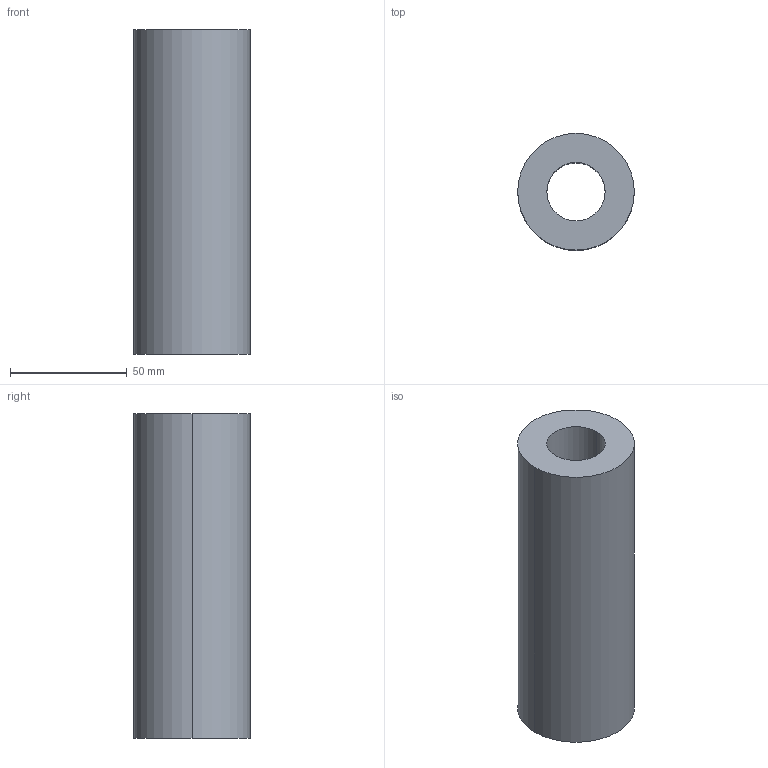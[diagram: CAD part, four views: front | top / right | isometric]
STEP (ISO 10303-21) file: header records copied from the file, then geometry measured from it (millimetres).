
FILE_DESCRIPTION (( 'STEP AP214' ), '1' );
FILE_NAME ('BRV-50X139.STEP', '2020-07-22T11:33:43', ( 'August' ), ( '' ), 'SwSTEP 2.0', 'SolidWorks 2018', '' );
FILE_SCHEMA (( 'AUTOMOTIVE_DESIGN' ));
Length unit declared in the file: millimetre
Products named in the file (1): BRV-50X139
Bounding box: 50 x 50 x 139 mm (x, y, z)
Volume: 204694.4 mm3; surface area: 35696.3 mm2
Topology: 1 solids, 1 shells, 6 faces, 12 edges, 8 vertices
Faces by surface type: cylinder 4, plane 2
Entity records: 202 total; most frequent: DIRECTION 34, CARTESIAN_POINT 27, ORIENTED_EDGE 24, AXIS2_PLACEMENT_3D 15, EDGE_CURVE 12, EDGE_LOOP 8, VERTEX_POINT 8, CIRCLE 8
